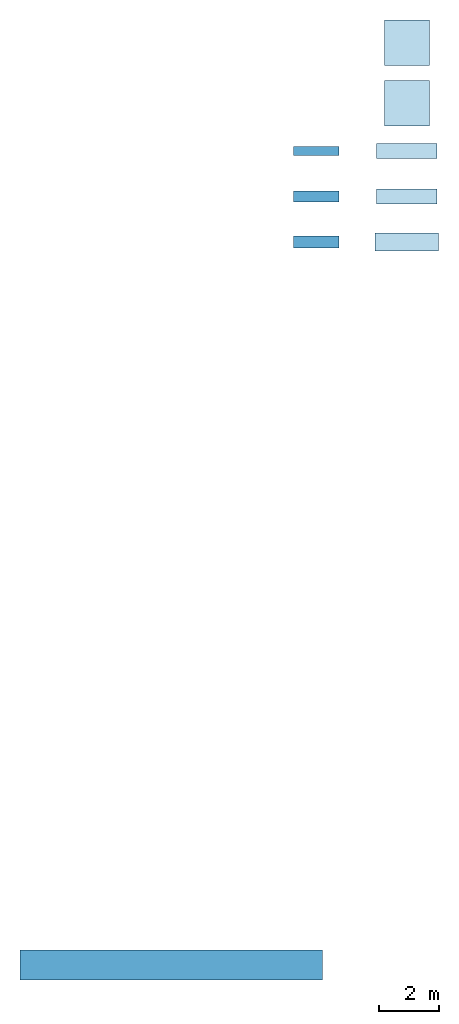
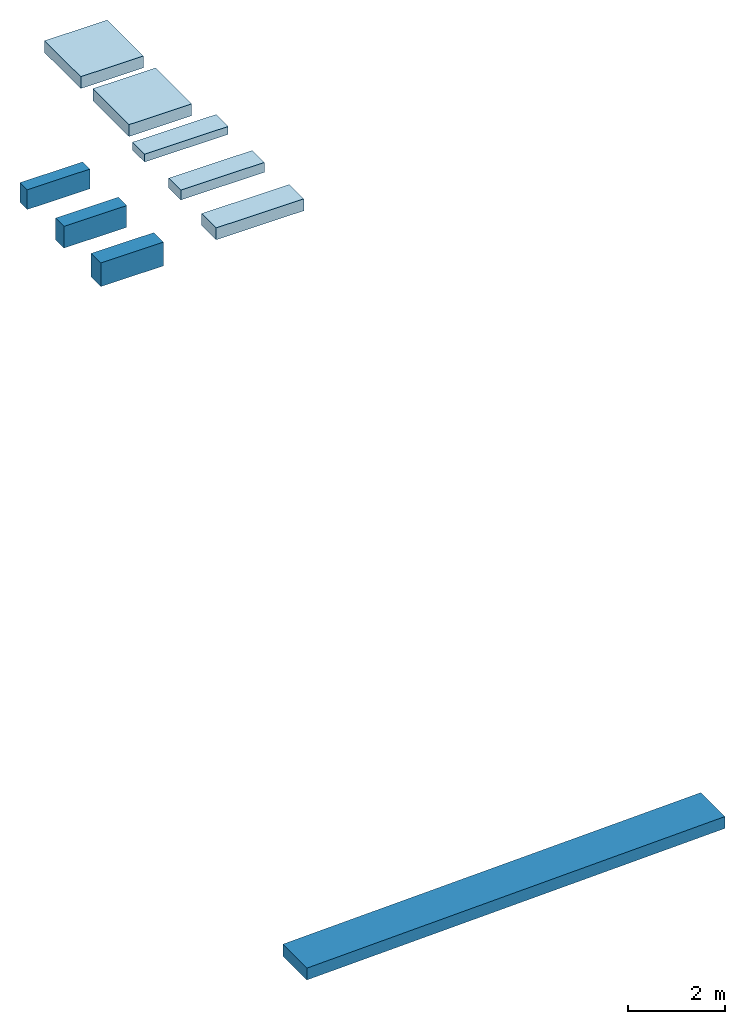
# One storey: 8 footings, 1 ramp, 1 element without a shape of its own.
"""IFC2X3 building model written with IfcOpenShell, lengths in millimetres."""

from ifc_helpers import new_model, entity, si_unit, converted_unit, derived_unit, direction, frame, frame_2d, origin, origin_2d_with_axis, place, context, subcontext, project, spatial, polyline, rectangle, outline, extrude, material, element, aggregate, save


model = new_model("IFC2X3")

# Units and contexts
model_context = context("Model", 3, precision=0.01, world=origin(), true_north=direction((6.12303176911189e-17, 1.0)))
body_context = subcontext(model_context, "Body", "Model", "MODEL_VIEW")
ifc_project = project(units=[si_unit("LENGTHUNIT", "METRE", prefix="MILLI"), si_unit("AREAUNIT", "SQUARE_METRE"), si_unit("VOLUMEUNIT", "CUBIC_METRE"), converted_unit("PLANEANGLEUNIT", "DEGREE", entity("IfcRatioMeasure", 0.0174532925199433), si_unit("PLANEANGLEUNIT", "RADIAN"), dimensions=[0, 0, 0, 0, 0, 0, 0]), si_unit("MASSUNIT", "GRAM", prefix="KILO"), si_unit("TIMEUNIT", "SECOND"), si_unit("FREQUENCYUNIT", "HERTZ"), si_unit("THERMODYNAMICTEMPERATUREUNIT", "KELVIN"), derived_unit("THERMALTRANSMITTANCEUNIT", [(si_unit("MASSUNIT", "GRAM", prefix="KILO"), 1), (si_unit("THERMODYNAMICTEMPERATUREUNIT", "KELVIN"), -1), (si_unit("TIMEUNIT", "SECOND"), -3)]), derived_unit("VOLUMETRICFLOWRATEUNIT", [(si_unit("LENGTHUNIT", "METRE"), 3), (si_unit("TIMEUNIT", "SECOND"), -1)]), si_unit("ELECTRICCURRENTUNIT", "AMPERE"), si_unit("ELECTRICVOLTAGEUNIT", "VOLT"), si_unit("POWERUNIT", "WATT")], contexts=[model_context])

# Site, building, storey
site_placement = place(None, origin())
site = spatial("IfcSite", under=ifc_project, at=site_placement, Name="Surface:5707", CompositionType="ELEMENT")
building_placement = place(site_placement, origin())
building = spatial("IfcBuilding", under=site, at=building_placement, CompositionType="ELEMENT")
storey_placement = place(building_placement, frame((0.0, 0.0, -3000.0)))
storey = spatial("IfcBuildingStorey", under=building, at=storey_placement, Name="-01 kelder", CompositionType="ELEMENT", Elevation=-3000.0)

# Footings
ifc_material_1 = material(Name="16_beton_ihwg_C30/35")
footing_1_placement = place(storey_placement, frame((29439.8687148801, -6498.9380073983, 2800.0)))
element("IfcFooting", 1, at=footing_1_placement, inside=storey, material=ifc_material_1, Name="Wall Foundation:16_SFO_ihwg beton_C30-35_500x200:16_SFO_ihwg beton_C30-35_500x200 : Wall Foundation:16_SFO_ihwg beton_C30-35_500x200:2189", ObjectType="Wall Foundation:16_SFO_ihwg beton_C30-35_500x200:Wall Foundation:16_SFO_ihwg beton_C30-35_500x200", PredefinedType="NOTDEFINED", context=body_context, shape_type="SweptSolid", body=[
    extrude(rectangle(XDim=500.0, YDim=2000.0, at=frame_2d((5.40012479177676e-13, 2.1600499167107e-12), x_axis=(1.0, 0.0))), frame((1000.0, 250.0, 0.0), z_axis=(0.0, 0.0, 1.0), x_axis=(0.0, 1.0, 0.0)), (0.0, 0.0, 1.0), 200.0),
])
footing_2_placement = place(storey_placement, frame((29439.8687148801, -7998.9380073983, 2750.0)))
element("IfcFooting", 2, at=footing_2_placement, inside=storey, material=ifc_material_1, Name="Wall Foundation:16_SFO_ihwg beton_C30-35_500x250:16_SFO_ihwg beton_C30-35_500x250 : Wall Foundation:16_SFO_ihwg beton_C30-35_500x250:2204", ObjectType="Wall Foundation:16_SFO_ihwg beton_C30-35_500x250:Wall Foundation:16_SFO_ihwg beton_C30-35_500x250", PredefinedType="NOTDEFINED", context=body_context, shape_type="SweptSolid", body=[
    extrude(rectangle(XDim=500.0, YDim=2000.0, at=frame_2d((5.40012479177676e-13, 2.1600499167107e-12), x_axis=(1.0, 0.0))), frame((1000.0, 250.0, 0.0), z_axis=(0.0, 0.0, 1.0), x_axis=(0.0, 1.0, 0.0)), (0.0, 0.0, 1.0), 250.0),
])
footing_3_placement = place(storey_placement, frame((29389.8687148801, -9548.93800739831, 2700.0)))
element("IfcFooting", 3, at=footing_3_placement, inside=storey, material=ifc_material_1, Name="Wall Foundation:16_SFO_ihwg beton_C30-35_600x300:16_SFO_ihwg beton_C30-35_600x300 : Wall Foundation:16_SFO_ihwg beton_C30-35_600x300:2218", ObjectType="Wall Foundation:16_SFO_ihwg beton_C30-35_600x300:Wall Foundation:16_SFO_ihwg beton_C30-35_600x300", PredefinedType="NOTDEFINED", context=body_context, shape_type="SweptSolid", body=[
    extrude(rectangle(XDim=600.0, YDim=2100.0, at=frame_2d((-1.08002495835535e-12, 0.0), x_axis=(1.0, 0.0))), frame((1050.0, 300.0, 0.0), z_axis=(0.0, 0.0, 1.0), x_axis=(0.0, 1.0, 0.0)), (0.0, 0.0, 1.0), 300.0),
])
ifc_material_2 = material(Name="16_beton_prefab_C35-45")
footing_4_placement = place(storey_placement, frame((26689.8687148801, -6398.93800739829, 2500.0)))
element("IfcFooting", 4, at=footing_4_placement, inside=storey, material=ifc_material_2, Name="Wall Foundation:16_SFO_prefab beton_C35-45_300x500:16_SFO_prefab beton_C35-45_300x500 : Wall Foundation:16_SFO_prefab beton_C35-45_300x500:2232", ObjectType="Wall Foundation:16_SFO_prefab beton_C35-45_300x500:Wall Foundation:16_SFO_prefab beton_C35-45_300x500", PredefinedType="NOTDEFINED", context=body_context, shape_type="SweptSolid", body=[
    extrude(rectangle(XDim=300.0, YDim=1500.0, at=frame_2d((-5.40012479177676e-13, 0.0), x_axis=(1.0, 0.0))), frame((750.0, 150.0, 0.0), z_axis=(0.0, 0.0, 1.0), x_axis=(0.0, 1.0, 0.0)), (0.0, 0.0, 1.0), 500.0),
])
footing_5_placement = place(storey_placement, frame((26689.8687148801, -7923.93800739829, 2450.0)))
element("IfcFooting", 5, at=footing_5_placement, inside=storey, material=ifc_material_2, Name="Wall Foundation:16_SFO_prefab beton_C35-45_350x550:16_SFO_prefab beton_C35-45_350x550 : Wall Foundation:16_SFO_prefab beton_C35-45_350x550:2247", ObjectType="Wall Foundation:16_SFO_prefab beton_C35-45_350x550:Wall Foundation:16_SFO_prefab beton_C35-45_350x550", PredefinedType="NOTDEFINED", context=body_context, shape_type="SweptSolid", body=[
    extrude(rectangle(XDim=349.999999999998, YDim=1500.0, at=origin_2d_with_axis()), frame((750.0, 175.0, 0.0), z_axis=(0.0, 0.0, 1.0), x_axis=(0.0, 1.0, 0.0)), (0.0, 0.0, 1.0), 550.0),
])
footing_6_placement = place(storey_placement, frame((26689.8687148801, -9448.93800739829, 2400.0)))
element("IfcFooting", 6, at=footing_6_placement, inside=storey, material=ifc_material_2, Name="Wall Foundation:16_SFO_prefab beton_C35-45_400x600:16_SFO_prefab beton_C35-45_400x600 : Wall Foundation:16_SFO_prefab beton_C35-45_400x600:2261", ObjectType="Wall Foundation:16_SFO_prefab beton_C35-45_400x600:Wall Foundation:16_SFO_prefab beton_C35-45_400x600", PredefinedType="NOTDEFINED", context=body_context, shape_type="SweptSolid", body=[
    extrude(rectangle(XDim=400.0, YDim=1500.0, at=origin_2d_with_axis()), frame((750.0, 200.0, 0.0), z_axis=(0.0, 0.0, 1.0), x_axis=(0.0, 1.0, 0.0)), (0.0, 0.0, 1.0), 600.0),
])
ifc_material_3 = material(Name="00_beton_ihwg_generiek")
footing_7_placement = place(storey_placement, frame((29693.3473849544, -3415.0, 2700.0)))
element("IfcFooting", 7, at=footing_7_placement, inside=storey, material=ifc_material_3, Name="Foundation Slab:16_SFO_funderingsplaat_beton_generiek_300:16_SFO_funderingsplaat_beton_generiek_300 : Foundation Slab:16_SFO_funderingsplaat_beton_generiek_300:2431", ObjectType="Foundation Slab:16_SFO_funderingsplaat_beton_generiek_300:Foundation Slab:16_SFO_funderingsplaat_beton_generiek_300", PredefinedType="NOTDEFINED", context=body_context, shape_type="SweptSolid", body=[
    extrude(rectangle(XDim=1500.0, YDim=1500.00000000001, at=origin_2d_with_axis()), frame((750.0, 750.0, 0.0), z_axis=(0.0, 0.0, 1.0), x_axis=(0.0, -1.0, 0.0)), (0.0, 0.0, 1.0), 300.0),
])
footing_8_placement = place(storey_placement, frame((29693.3473849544, -5415.0, 2700.0)))
element("IfcFooting", 8, at=footing_8_placement, inside=storey, material=ifc_material_1, Name="Foundation Slab:16_SFO_funderingsplaat_ihwg_beton_C30/37:16_SFO_funderingsplaat_ihwg_beton_C30/37 : Foundation Slab:16_SFO_funderingsplaat_ihwg_beton_C30/37:2446", ObjectType="Foundation Slab:16_SFO_funderingsplaat_ihwg_beton_C30/37:Foundation Slab:16_SFO_funderingsplaat_ihwg_beton_C30/37", PredefinedType="NOTDEFINED", context=body_context, shape_type="SweptSolid", body=[
    extrude(rectangle(XDim=1500.0, YDim=1500.00000000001, at=origin_2d_with_axis()), frame((750.0, 750.0, 0.0), z_axis=(0.0, 0.0, 1.0), x_axis=(0.0, -1.0, 0.0)), (0.0, 0.0, 1.0), 300.0),
])

# Ramps
ramp_1_placement = place(storey_placement, frame((17650.3204725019, -33650.6479444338, 2699.83337960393)))
ramp_1 = element("IfcRamp", 9, at=ramp_1_placement, inside=storey, Name="Ramp:24_RA_hellingbaan_beton_prefab_300:1:24_RA_hellingbaan_beton_prefab_300:1 : Ramp:24_RA_hellingbaan_beton_prefab_300:1:4336", ObjectType="Ramp:24_RA_hellingbaan_beton_prefab_300:1:Ramp:24_RA_hellingbaan_beton_prefab_300:1:4334", ShapeType="NOTDEFINED")
ifc_material_4 = material(Name="24_beton_prefab_generiek")
ramp_2_placement = place(ramp_1_placement, origin())
ramp_2 = element("IfcRamp", 10, at=ramp_2_placement, material=ifc_material_4, Name="Ramp:24_RA_hellingbaan_beton_prefab_300:1:24_RA_hellingbaan_beton_prefab_300:1 : Ramp:24_RA_hellingbaan_beton_prefab_300:1:4336", ObjectType="Ramp:24_RA_hellingbaan_beton_prefab_300:1:Ramp:24_RA_hellingbaan_beton_prefab_300:1:4334", ShapeType="NOTDEFINED", context=body_context, shape_type="SweptSolid", body=[
    extrude(outline(polyline([(-4997.77700660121, -150.0), (5007.77700660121, -150.0), (4997.77700660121, 150.0), (-5007.77700660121, 150.0), (-4997.77700660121, -150.0)])), frame((5000.0, 0.0, 316.749976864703), z_axis=(0.0, 1.0, 0.0), x_axis=(-0.999444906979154, 0.0, -0.0333148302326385)), (0.0, 0.0, 1.0), 999.999999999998),
])
aggregate(ramp_1, [ramp_2])

save(model, "model.ifc")
